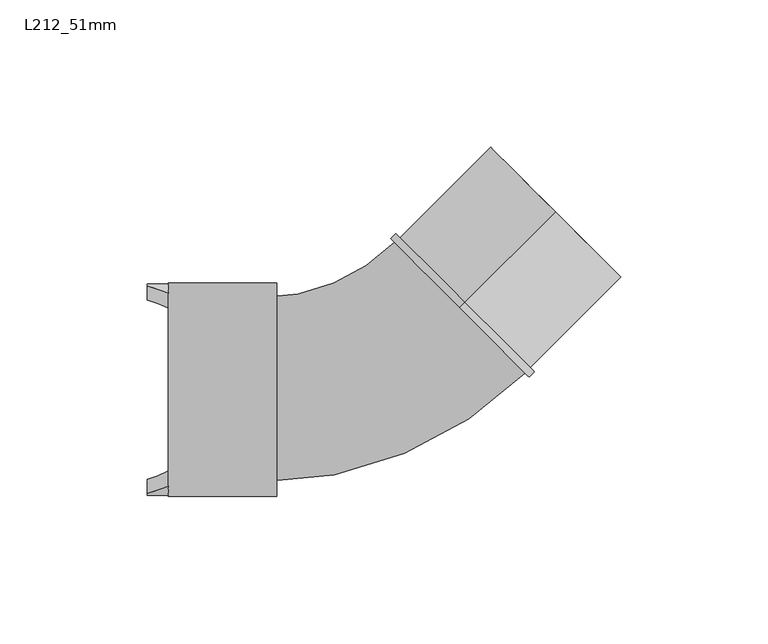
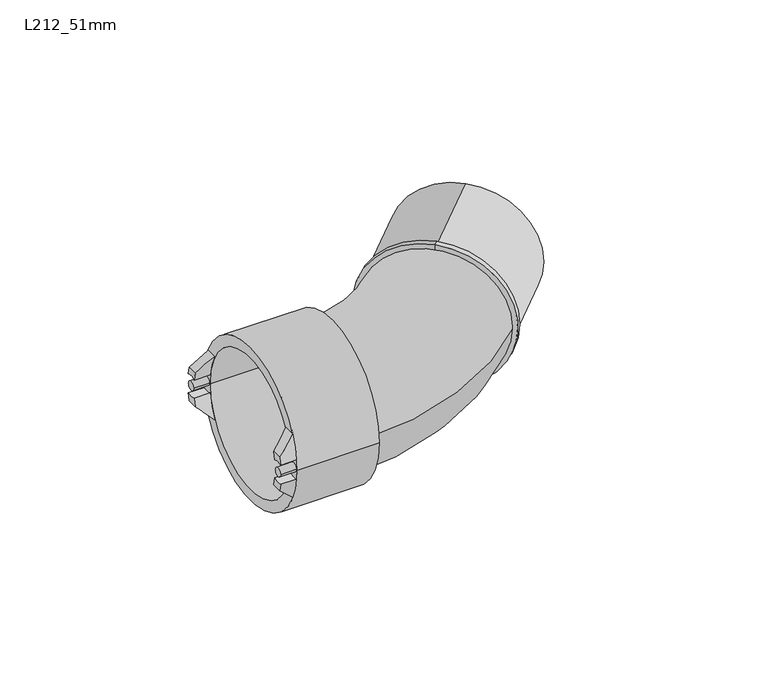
"""IFC4 building model written with IfcOpenShell, lengths in millimetres: pipe fitting geometry, Durapipe_PipeFitting_VulcatheneEnfusion_SingleSocketSlowBend_L21 : L212_51mm."""

from ifc_helpers import new_model, si_unit, point, frame, frame_2d, origin, place, context, project, spatial, polyline, circle_curve, ellipse_curve, trimmed, segment, composite_curve, outline, extrude, source, transform, mapped, element, save
from ifc_brep_helpers import plane_surface, cylinder_surface, revolved_surface, advanced_brep


def l212_51mm_df6e6011(model_context):
    return source(origin(), model_context, "Body", "SolidModel", [
        advanced_brep(
        [(-78.2917098, 31.2103566, -4.2618822), (-78.2917098, 35.8603566, -4.5669819), (-78.2917098, 35.2672497, -7.94), (-78.2917098, 30.482887, -7.94), (-71.1917098, 32.8910702, -15.0), (-71.1917098, 35.8603566, -4.5669819), (-71.1917098, 31.2103566, -4.2618822), (-71.1917098, 27.699278, -15.0)],
        [
            (0, 1, circle_curve(frame((-78.2917098, 33.825, 0.0), z_axis=(1.0, 0.0, 0.0), x_axis=(0.0, -1.0, 0.0)), 5.0)),
            (1, 2, circle_curve(frame((-78.2917098, 0.0, 0.0), z_axis=(-1.0, 0.0, 0.0), x_axis=(0.0, -1.0, 0.0)), 36.15)),
            (2, 3),
            (3, 0, circle_curve(frame((-78.2917098, 0.0, 0.0), z_axis=(1.0, 0.0, 0.0), x_axis=(0.0, -1.0, 0.0)), 31.5)),
            (4, 5, circle_curve(frame((-71.1917098, 0.0, 0.0), z_axis=(1.0, 0.0, 0.0), x_axis=(0.0, -1.0, 0.0)), 36.15)),
            (5, 6, circle_curve(frame((-71.1917098, 33.825, 0.0), z_axis=(-1.0, 0.0, 0.0), x_axis=(0.0, -1.0, 0.0)), 5.0)),
            (6, 7, circle_curve(frame((-71.1917098, 0.0, 0.0), z_axis=(-1.0, 0.0, 0.0), x_axis=(0.0, -1.0, 0.0)), 31.5)),
            (7, 4),
            (6, 0),
            (3, 7, ellipse_curve(frame((-86.2766956, 0.0, 0.0), z_axis=(-0.705106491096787, 0.0, -0.7091014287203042), x_axis=(0.7091014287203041, 0.0, -0.705106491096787)), 44.674103, 31.5)),
            (4, 2, ellipse_curve(frame((-86.2766956, 0.0, 0.0), z_axis=(0.705106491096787, 0.0, 0.7091014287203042), x_axis=(-0.7091014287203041, 0.0, 0.705106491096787)), 51.2688515, 36.15)),
            (1, 5),
        ],
        [
            plane_surface(frame((-78.2917098, 32.8910702, -15.0), z_axis=(-1.0, 0.0, 0.0), x_axis=(0.0, -1.0, 0.0))),
            plane_surface(frame((-71.1917098, 32.8910702, -15.0), z_axis=(1.0, 0.0, 0.0), x_axis=(0.0, 1.0, 0.0))),
            revolved_surface(polyline([(-54.59822533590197, -31.5, 0.0), (-117.95516586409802, -31.5, 0.0)]), (-71.1917098, 0.0, 0.0), (1.0, 0.0, 0.0)),
            cylinder_surface(frame((-71.1917098, 0.0, 0.0), z_axis=(-1.0, 0.0, 0.0), x_axis=(0.0, -1.0, 0.0)), 36.15),
            revolved_surface(polyline([(-78.2917098, 28.825000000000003, 0.0), (-71.1917098, 28.825000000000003, 0.0)]), (-71.1917098, 33.825, 0.0), (-1.0, 0.0, 0.0)),
            plane_surface(frame((-71.1917098, -36.15, -15.0), z_axis=(-0.705106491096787, 0.0, -0.7091014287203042), x_axis=(0.0, 1.0, 0.0))),
        ],
        [
            (0, [[1, 2, 3, 4]]),
            (1, [[5, 6, 7, 8]]),
            (2, [[-7, 9, -4, 10]]),
            (3, [[-5, 11, -2, 12]]),
            (4, [[-1, -9, -6, -12]]),
            (5, [[-3, -11, -8, -10]]),
        ],
    ),
        advanced_brep(
        [(-78.2917098, 35.8603566, 4.5669819), (-78.2917098, 31.2103566, 4.2618822), (-78.2917098, 30.482887, 7.94), (-78.2917098, 35.2672497, 7.94), (-71.1917098, 35.8603566, 4.5669819), (-71.1917098, 32.8910702, 15.0), (-71.1917098, 27.699278, 15.0), (-71.1917098, 31.2103566, 4.2618822)],
        [
            (0, 1, circle_curve(frame((-78.2917098, 33.825, 0.0), z_axis=(1.0, 0.0, 0.0), x_axis=(0.0, -1.0, 0.0)), 5.0)),
            (1, 2, circle_curve(frame((-78.2917098, 0.0, 0.0), z_axis=(1.0, 0.0, 0.0), x_axis=(0.0, -1.0, 0.0)), 31.5)),
            (2, 3),
            (3, 0, circle_curve(frame((-78.2917098, 0.0, 0.0), z_axis=(-1.0, 0.0, 0.0), x_axis=(0.0, -1.0, 0.0)), 36.15)),
            (4, 5, circle_curve(frame((-71.1917098, 0.0, 0.0), z_axis=(1.0, 0.0, 0.0), x_axis=(0.0, -1.0, 0.0)), 36.15)),
            (5, 6),
            (6, 7, circle_curve(frame((-71.1917098, 0.0, 0.0), z_axis=(-1.0, 0.0, 0.0), x_axis=(0.0, -1.0, 0.0)), 31.5)),
            (7, 4, circle_curve(frame((-71.1917098, 33.825, 0.0), z_axis=(-1.0, 0.0, 0.0), x_axis=(0.0, -1.0, 0.0)), 5.0)),
            (6, 2, ellipse_curve(frame((-86.2766956, 0.0, 0.0), z_axis=(-0.7051064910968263, 0.0, 0.7091014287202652), x_axis=(0.7091014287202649, 0.0, 0.7051064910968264)), 44.674103, 31.5)),
            (1, 7),
            (4, 0),
            (3, 5, ellipse_curve(frame((-86.2766956, 0.0, 0.0), z_axis=(0.7051064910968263, 0.0, -0.7091014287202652), x_axis=(-0.7091014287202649, 0.0, -0.7051064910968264)), 51.2688515, 36.15)),
        ],
        [
            plane_surface(frame((-78.2917098, 32.8910702, -15.0), z_axis=(-1.0, 0.0, 0.0), x_axis=(0.0, -1.0, 0.0))),
            plane_surface(frame((-71.1917098, 32.8910702, -15.0), z_axis=(1.0, 0.0, 0.0), x_axis=(0.0, 1.0, 0.0))),
            revolved_surface(polyline([(-54.59822533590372, -31.5, 0.0), (-117.95516586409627, -31.5, 0.0)]), (-71.1917098, 0.0, 0.0), (1.0, 0.0, 0.0)),
            cylinder_surface(frame((-71.1917098, 0.0, 0.0), z_axis=(-1.0, 0.0, 0.0), x_axis=(0.0, -1.0, 0.0)), 36.15),
            revolved_surface(polyline([(-78.2917098, 28.825000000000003, 0.0), (-71.1917098, 28.825000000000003, 0.0)]), (-71.1917098, 33.825, 0.0), (-1.0, 0.0, 0.0)),
            plane_surface(frame((-78.2917098, -36.15, 7.94), z_axis=(-0.7051064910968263, 0.0, 0.7091014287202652), x_axis=(0.0, 1.0, 0.0))),
        ],
        [
            (0, [[1, 2, 3, 4]]),
            (1, [[5, 6, 7, 8]]),
            (2, [[-7, 9, -2, 10]]),
            (3, [[-5, 11, -4, 12]]),
            (4, [[-1, -11, -8, -10]]),
            (5, [[-3, -9, -6, -12]]),
        ],
    ),
        advanced_brep(
        [(-78.2917098, -35.8603566, -4.5669819), (-78.2917098, -31.2103566, -4.2618822), (-78.2917098, -30.482887, -7.94), (-78.2917098, -35.2672497, -7.94), (-71.1917098, -35.8603566, -4.5669819), (-71.1917098, -32.8910702, -15.0), (-71.1917098, -27.699278, -15.0), (-71.1917098, -31.2103566, -4.2618822)],
        [
            (0, 1, circle_curve(frame((-78.2917098, -33.825, 0.0), z_axis=(1.0, 0.0, 0.0), x_axis=(0.0, -1.0, 0.0)), 5.0)),
            (1, 2, circle_curve(frame((-78.2917098, 0.0, 0.0), z_axis=(1.0, 0.0, 0.0), x_axis=(0.0, -1.0, 0.0)), 31.5)),
            (2, 3),
            (3, 0, circle_curve(frame((-78.2917098, 0.0, 0.0), z_axis=(-1.0, 0.0, 0.0), x_axis=(0.0, -1.0, 0.0)), 36.15)),
            (4, 5, circle_curve(frame((-71.1917098, 0.0, 0.0), z_axis=(1.0, 0.0, 0.0), x_axis=(0.0, -1.0, 0.0)), 36.15)),
            (5, 6),
            (6, 7, circle_curve(frame((-71.1917098, 0.0, 0.0), z_axis=(-1.0, 0.0, 0.0), x_axis=(0.0, -1.0, 0.0)), 31.5)),
            (7, 4, circle_curve(frame((-71.1917098, -33.825, 0.0), z_axis=(-1.0, 0.0, 0.0), x_axis=(0.0, -1.0, 0.0)), 5.0)),
            (6, 2, ellipse_curve(frame((-86.2766956, 0.0, 0.0), z_axis=(-0.705106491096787, 0.0, -0.7091014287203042), x_axis=(0.7091014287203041, 0.0, -0.705106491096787)), 44.674103, 31.5)),
            (1, 7),
            (4, 0),
            (3, 5, ellipse_curve(frame((-86.2766956, 0.0, 0.0), z_axis=(0.705106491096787, 0.0, 0.7091014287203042), x_axis=(-0.7091014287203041, 0.0, 0.705106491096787)), 51.2688515, 36.15)),
        ],
        [
            plane_surface(frame((-78.2917098, 32.8910702, -15.0), z_axis=(-1.0, 0.0, 0.0), x_axis=(0.0, -1.0, 0.0))),
            plane_surface(frame((-71.1917098, 32.8910702, -15.0), z_axis=(1.0, 0.0, 0.0), x_axis=(0.0, 1.0, 0.0))),
            revolved_surface(polyline([(-54.59822533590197, -31.5, 0.0), (-117.95516586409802, -31.5, 0.0)]), (-71.1917098, 0.0, 0.0), (1.0, 0.0, 0.0)),
            cylinder_surface(frame((-71.1917098, 0.0, 0.0), z_axis=(-1.0, 0.0, 0.0), x_axis=(0.0, -1.0, 0.0)), 36.15),
            revolved_surface(polyline([(-78.2917098, -38.825, 0.0), (-71.1917098, -38.825, 0.0)]), (-71.1917098, -33.825, 0.0), (-1.0, 0.0, 0.0)),
            plane_surface(frame((-71.1917098, -36.15, -15.0), z_axis=(-0.705106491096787, 0.0, -0.7091014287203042), x_axis=(0.0, 1.0, 0.0))),
        ],
        [
            (0, [[1, 2, 3, 4]]),
            (1, [[5, 6, 7, 8]]),
            (2, [[-7, 9, -2, 10]]),
            (3, [[-5, 11, -4, 12]]),
            (4, [[-1, -11, -8, -10]]),
            (5, [[-3, -9, -6, -12]]),
        ],
    ),
        advanced_brep(
        [(-78.2917098, -31.2103566, 4.2618822), (-78.2917098, -35.8603566, 4.5669819), (-78.2917098, -35.2672497, 7.94), (-78.2917098, -30.482887, 7.94), (-71.1917098, -32.8910702, 15.0), (-71.1917098, -35.8603566, 4.5669819), (-71.1917098, -31.2103566, 4.2618822), (-71.1917098, -27.699278, 15.0)],
        [
            (0, 1, circle_curve(frame((-78.2917098, -33.825, 0.0), z_axis=(1.0, 0.0, 0.0), x_axis=(0.0, -1.0, 0.0)), 5.0)),
            (1, 2, circle_curve(frame((-78.2917098, 0.0, 0.0), z_axis=(-1.0, 0.0, 0.0), x_axis=(0.0, -1.0, 0.0)), 36.15)),
            (2, 3),
            (3, 0, circle_curve(frame((-78.2917098, 0.0, 0.0), z_axis=(1.0, 0.0, 0.0), x_axis=(0.0, -1.0, 0.0)), 31.5)),
            (4, 5, circle_curve(frame((-71.1917098, 0.0, 0.0), z_axis=(1.0, 0.0, 0.0), x_axis=(0.0, -1.0, 0.0)), 36.15)),
            (5, 6, circle_curve(frame((-71.1917098, -33.825, 0.0), z_axis=(-1.0, 0.0, 0.0), x_axis=(0.0, -1.0, 0.0)), 5.0)),
            (6, 7, circle_curve(frame((-71.1917098, 0.0, 0.0), z_axis=(-1.0, 0.0, 0.0), x_axis=(0.0, -1.0, 0.0)), 31.5)),
            (7, 4),
            (6, 0),
            (3, 7, ellipse_curve(frame((-86.2766956, 0.0, 0.0), z_axis=(-0.7051064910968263, 0.0, 0.7091014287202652), x_axis=(0.7091014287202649, 0.0, 0.7051064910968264)), 44.674103, 31.5)),
            (4, 2, ellipse_curve(frame((-86.2766956, 0.0, 0.0), z_axis=(0.7051064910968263, 0.0, -0.7091014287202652), x_axis=(-0.7091014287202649, 0.0, -0.7051064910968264)), 51.2688515, 36.15)),
            (1, 5),
        ],
        [
            plane_surface(frame((-78.2917098, 32.8910702, -15.0), z_axis=(-1.0, 0.0, 0.0), x_axis=(0.0, -1.0, 0.0))),
            plane_surface(frame((-71.1917098, 32.8910702, -15.0), z_axis=(1.0, 0.0, 0.0), x_axis=(0.0, 1.0, 0.0))),
            revolved_surface(polyline([(-54.59822533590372, -31.5, 0.0), (-117.95516586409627, -31.5, 0.0)]), (-71.1917098, 0.0, 0.0), (1.0, 0.0, 0.0)),
            cylinder_surface(frame((-71.1917098, 0.0, 0.0), z_axis=(-1.0, 0.0, 0.0), x_axis=(0.0, -1.0, 0.0)), 36.15),
            revolved_surface(polyline([(-78.2917098, -38.825, 0.0), (-71.1917098, -38.825, 0.0)]), (-71.1917098, -33.825, 0.0), (-1.0, 0.0, 0.0)),
            plane_surface(frame((-78.2917098, -36.15, 7.94), z_axis=(-0.7051064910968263, 0.0, 0.7091014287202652), x_axis=(0.0, 1.0, 0.0))),
        ],
        [
            (0, [[1, 2, 3, 4]]),
            (1, [[5, 6, 7, 8]]),
            (2, [[-7, 9, -4, 10]]),
            (3, [[-5, 11, -2, 12]]),
            (4, [[-1, -9, -6, -12]]),
            (5, [[-3, -11, -8, -10]]),
        ],
    ),
        extrude(outline(composite_curve([segment(trimmed(circle_curve(frame_2d((33.825, 0.0)), 2.0), [point((35.825, 0.0))], [point((31.825, 0.0))], False, "CARTESIAN"), True, "CONTINUOUS"), segment(trimmed(circle_curve(frame_2d((33.825, 0.0)), 2.0), [point((31.825, 0.0))], [point((35.825, 0.0))], False, "CARTESIAN"), True, "CONTINUOUS")], self_intersect=False)), frame((-78.2917098, 0.0, 0.0), z_axis=(1.0, 0.0, 0.0), x_axis=(0.0, 1.0, 0.0)), (0.0, 0.0, 1.0), 7.1),
        extrude(outline(composite_curve([segment(trimmed(circle_curve(frame_2d((-33.825, 0.0)), 2.0), [point((-31.825, 0.0))], [point((-35.825, 0.0))], False, "CARTESIAN"), True, "CONTINUOUS"), segment(trimmed(circle_curve(frame_2d((-33.825, 0.0)), 2.0), [point((-35.825, 0.0))], [point((-31.825, 0.0))], False, "CARTESIAN"), True, "CONTINUOUS")], self_intersect=False)), frame((-78.2917098, 0.0, 0.0), z_axis=(1.0, 0.0, 0.0), x_axis=(0.0, 1.0, 0.0)), (0.0, 0.0, 1.0), 7.1),
        advanced_brep(
        [(-39.3917098, 26.1, 0.0), (-39.3917098, -26.1, 0.0), (-39.3917098, -31.35, 0.0), (-39.3917098, 31.35, 0.0), (-34.2917098, 26.1, 0.0), (-34.2917098, -26.1, 0.0), (-34.2917098, 36.3, 0.0), (-34.2917098, -36.3, 0.0), (-71.1917098, 36.3, 0.0), (-71.1917098, -36.3, 0.0), (-71.1917098, 31.35, 0.0), (-71.1917098, -31.35, 0.0)],
        [
            (0, 1, circle_curve(frame((-39.3917098, 0.0, 0.0), z_axis=(1.0, 0.0, 0.0), x_axis=(0.0, -1.0, 0.0)), 26.1)),
            (1, 2),
            (2, 3, circle_curve(frame((-39.3917098, 0.0, 0.0), z_axis=(-1.0, 0.0, 0.0), x_axis=(0.0, -1.0, 0.0)), 31.35)),
            (3, 0),
            (1, 0, circle_curve(frame((-39.3917098, 0.0, 0.0), z_axis=(1.0, 0.0, 0.0), x_axis=(0.0, -1.0, 0.0)), 26.1)),
            (3, 2, circle_curve(frame((-39.3917098, 0.0, 0.0), z_axis=(-1.0, 0.0, 0.0), x_axis=(0.0, -1.0, 0.0)), 31.35)),
            (4, 5, circle_curve(frame((-34.2917098, 0.0, 0.0), z_axis=(1.0, 0.0, 0.0), x_axis=(0.0, -1.0, 0.0)), 26.1)),
            (5, 1),
            (0, 4),
            (5, 4, circle_curve(frame((-34.2917098, 0.0, 0.0), z_axis=(1.0, 0.0, 0.0), x_axis=(0.0, -1.0, 0.0)), 26.1)),
            (6, 7, circle_curve(frame((-34.2917098, 0.0, 0.0), z_axis=(1.0, 0.0, 0.0), x_axis=(0.0, -1.0, 0.0)), 36.3)),
            (7, 5),
            (4, 6),
            (7, 6, circle_curve(frame((-34.2917098, 0.0, 0.0), z_axis=(1.0, 0.0, 0.0), x_axis=(0.0, -1.0, 0.0)), 36.3)),
            (8, 9, circle_curve(frame((-71.1917098, 0.0, 0.0), z_axis=(1.0, 0.0, 0.0), x_axis=(0.0, -1.0, 0.0)), 36.3)),
            (9, 7),
            (6, 8),
            (9, 8, circle_curve(frame((-71.1917098, 0.0, 0.0), z_axis=(1.0, 0.0, 0.0), x_axis=(0.0, -1.0, 0.0)), 36.3)),
            (10, 11, circle_curve(frame((-71.1917098, 0.0, 0.0), z_axis=(1.0, 0.0, 0.0), x_axis=(0.0, -1.0, 0.0)), 31.35)),
            (11, 9),
            (8, 10),
            (11, 10, circle_curve(frame((-71.1917098, 0.0, 0.0), z_axis=(1.0, 0.0, 0.0), x_axis=(0.0, -1.0, 0.0)), 31.35)),
            (2, 11),
            (10, 3),
        ],
        [
            plane_surface(frame((-39.3917098, 0.0, 0.0), z_axis=(-1.0, 0.0, 0.0), x_axis=(0.0, -1.0, 0.0))),
            revolved_surface(polyline([(-39.39170980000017, -26.1, 0.0), (-34.29170979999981, -26.1, 0.0)]), (-2585.1743338, 0.0, 0.0), (-1.0, 0.0, 0.0)),
            plane_surface(frame((-34.2917098, 0.0, 0.0), z_axis=(1.0, 0.0, 0.0), x_axis=(0.0, -1.0, 0.0))),
            cylinder_surface(frame((-2585.1743338, 0.0, 0.0), z_axis=(-1.0, 0.0, 0.0), x_axis=(0.0, -1.0, 0.0)), 36.3),
            plane_surface(frame((-71.1917098, 0.0, 0.0), z_axis=(-1.0, 0.0, 0.0), x_axis=(0.0, -1.0, 0.0))),
            revolved_surface(polyline([(-71.1917097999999, -31.35, 0.0), (-39.39170980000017, -31.35, 0.0)]), (-2585.1743338, 0.0, 0.0), (-1.0, 0.0, 0.0)),
        ],
        [
            (0, [[1, 2, 3, 4]]),
            (0, [[5, -4, 6, -2]]),
            (1, [[7, 8, -1, 9]]),
            (1, [[10, -9, -5, -8]]),
            (2, [[11, 12, -7, 13]]),
            (2, [[14, -13, -10, -12]]),
            (3, [[15, 16, -11, 17]]),
            (3, [[18, -17, -14, -16]]),
            (4, [[19, 20, -15, 21]]),
            (4, [[22, -21, -18, -20]]),
            (5, [[-3, 23, -19, 24]]),
            (5, [[-6, -24, -22, -23]]),
        ],
    ),
        advanced_brep(
        [(27.8541451, 27.8541451, -33.35), (27.8541451, 27.8541451, 33.35), (27.8541451, 27.8541451, 26.1), (27.8541451, 27.8541451, -26.1), (29.6219121, 29.6219121, -33.35), (29.6219121, 29.6219121, 33.35), (29.6219121, 29.6219121, -31.35), (29.6219121, 29.6219121, 31.35), (60.381057, 60.381057, -31.35), (60.381057, 60.381057, 31.35), (60.381057, 60.381057, -26.1), (60.381057, 60.381057, 26.1)],
        [
            (0, 1, circle_curve(frame((27.8541451, 27.8541451, 0.0), z_axis=(-0.7071067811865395, -0.7071067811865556, 0.0), x_axis=(0.0, 0.0, 1.0)), 33.35)),
            (1, 2),
            (2, 3, circle_curve(frame((27.8541451, 27.8541451, 0.0), z_axis=(0.7071067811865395, 0.7071067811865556, 0.0), x_axis=(0.0, 0.0, 1.0)), 26.1)),
            (3, 0),
            (1, 0, circle_curve(frame((27.8541451, 27.8541451, 0.0), z_axis=(-0.7071067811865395, -0.7071067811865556, 0.0), x_axis=(0.0, 0.0, 1.0)), 33.35)),
            (3, 2, circle_curve(frame((27.8541451, 27.8541451, 0.0), z_axis=(0.7071067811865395, 0.7071067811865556, 0.0), x_axis=(0.0, 0.0, 1.0)), 26.1)),
            (4, 5, circle_curve(frame((29.6219121, 29.6219121, 0.0), z_axis=(-0.7071067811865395, -0.7071067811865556, 0.0), x_axis=(0.0, 0.0, 1.0)), 33.35)),
            (5, 1),
            (0, 4),
            (5, 4, circle_curve(frame((29.6219121, 29.6219121, 0.0), z_axis=(-0.7071067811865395, -0.7071067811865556, 0.0), x_axis=(0.0, 0.0, 1.0)), 33.35)),
            (6, 7, circle_curve(frame((29.6219121, 29.6219121, 0.0), z_axis=(-0.7071067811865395, -0.7071067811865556, 0.0), x_axis=(0.0, 0.0, 1.0)), 31.35)),
            (7, 5),
            (4, 6),
            (7, 6, circle_curve(frame((29.6219121, 29.6219121, 0.0), z_axis=(-0.7071067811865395, -0.7071067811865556, 0.0), x_axis=(0.0, 0.0, 1.0)), 31.35)),
            (8, 9, circle_curve(frame((60.381057, 60.381057, 0.0), z_axis=(-0.7071067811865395, -0.7071067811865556, 0.0), x_axis=(0.0, 0.0, 1.0)), 31.35)),
            (9, 7),
            (6, 8),
            (9, 8, circle_curve(frame((60.381057, 60.381057, 0.0), z_axis=(-0.7071067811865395, -0.7071067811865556, 0.0), x_axis=(0.0, 0.0, 1.0)), 31.35)),
            (10, 11, circle_curve(frame((60.381057, 60.381057, 0.0), z_axis=(-0.7071067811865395, -0.7071067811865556, 0.0), x_axis=(0.0, 0.0, 1.0)), 26.1)),
            (11, 9),
            (8, 10),
            (11, 10, circle_curve(frame((60.381057, 60.381057, 0.0), z_axis=(-0.7071067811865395, -0.7071067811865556, 0.0), x_axis=(0.0, 0.0, 1.0)), 26.1)),
            (2, 11),
            (10, 3),
        ],
        [
            plane_surface(frame((27.8541451, 27.8541451, 0.0), z_axis=(-0.7071067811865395, -0.7071067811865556, 0.0), x_axis=(0.0, 0.0, 1.0))),
            cylinder_surface(frame((1862.8373261, 1862.8373261, 0.0), z_axis=(0.7071067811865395, 0.7071067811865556, 0.0), x_axis=(0.0, 0.0, 1.0)), 33.35),
            plane_surface(frame((29.6219121, 29.6219121, 0.0), z_axis=(0.7071067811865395, 0.7071067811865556, 0.0), x_axis=(0.0, 0.0, 1.0))),
            cylinder_surface(frame((1862.8373261, 1862.8373261, 0.0), z_axis=(0.7071067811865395, 0.7071067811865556, 0.0), x_axis=(0.0, 0.0, 1.0)), 31.35),
            plane_surface(frame((60.381057, 60.381057, 0.0), z_axis=(0.7071067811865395, 0.7071067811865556, 0.0), x_axis=(0.0, 0.0, 1.0))),
            revolved_surface(polyline([(60.381057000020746, 60.38105699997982, 26.1), (27.854145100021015, 27.854145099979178, 26.1)]), (1862.8373261, 1862.8373261, 0.0), (0.7071067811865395, 0.7071067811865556, 0.0)),
        ],
        [
            (0, [[1, 2, 3, 4]]),
            (0, [[5, -4, 6, -2]]),
            (1, [[7, 8, -1, 9]]),
            (1, [[10, -9, -5, -8]]),
            (2, [[11, 12, -7, 13]]),
            (2, [[14, -13, -10, -12]]),
            (3, [[15, 16, -11, 17]]),
            (3, [[18, -17, -14, -16]]),
            (4, [[19, 20, -15, 21]]),
            (4, [[22, -21, -18, -20]]),
            (5, [[-3, 23, -19, 24]]),
            (5, [[-6, -24, -22, -23]]),
        ],
    ),
        advanced_brep(
        [(-39.3917098, -31.35, 0.0), (-39.3917098, 31.35, 0.0), (-39.3917098, -26.1, 0.0), (-39.3917098, 26.1, 0.0), (50.0219427, 5.6863475, 0.0), (5.6863475, 50.0219427, 0.0), (46.3096321, 9.3986581, 0.0), (9.3986581, 46.3096321, 0.0)],
        [
            (0, 1, circle_curve(frame((-39.3917098, 0.0, 0.0), z_axis=(-1.0, 0.0, 0.0), x_axis=(0.0, 1.0, 0.0)), 31.35)),
            (1, 0, circle_curve(frame((-39.3917098, 0.0, 0.0), z_axis=(-1.0, 0.0, 0.0), x_axis=(0.0, 1.0, 0.0)), 31.35)),
            (2, 3, circle_curve(frame((-39.3917098, 0.0, 0.0), z_axis=(1.0, 0.0, 0.0), x_axis=(0.0, 1.0, 0.0)), 26.1)),
            (3, 2, circle_curve(frame((-39.3917098, 0.0, 0.0), z_axis=(1.0, 0.0, 0.0), x_axis=(0.0, 1.0, 0.0)), 26.1)),
            (4, 5, circle_curve(frame((27.8541451, 27.8541451, 0.0), z_axis=(0.7071067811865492, 0.7071067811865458, 0.0), x_axis=(-0.7071067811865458, 0.7071067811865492, 0.0)), 31.35)),
            (5, 4, circle_curve(frame((27.8541451, 27.8541451, 0.0), z_axis=(0.7071067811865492, 0.7071067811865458, 0.0), x_axis=(-0.7071067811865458, 0.7071067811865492, 0.0)), 31.35)),
            (6, 7, circle_curve(frame((27.8541451, 27.8541451, 0.0), z_axis=(-0.7071067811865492, -0.7071067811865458, 0.0), x_axis=(-0.7071067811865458, 0.7071067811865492, 0.0)), 26.1)),
            (7, 6, circle_curve(frame((27.8541451, 27.8541451, 0.0), z_axis=(-0.7071067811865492, -0.7071067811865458, 0.0), x_axis=(-0.7071067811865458, 0.7071067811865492, 0.0)), 26.1)),
            (5, 1, circle_curve(frame((-39.3917098, 95.1, 0.0), z_axis=(0.0, 0.0, -1.0), x_axis=(0.0, -1.0, 0.0)), 63.75)),
            (0, 4, circle_curve(frame((-39.3917098, 95.1, 0.0), z_axis=(0.0, 0.0, 1.0), x_axis=(0.0, -1.0, 0.0)), 126.45)),
            (7, 3, circle_curve(frame((-39.3917098, 95.1, 0.0), z_axis=(0.0, 0.0, -1.0), x_axis=(0.0, -1.0, 0.0)), 69.0)),
            (2, 6, circle_curve(frame((-39.3917098, 95.1, 0.0), z_axis=(0.0, 0.0, 1.0), x_axis=(0.0, -1.0, 0.0)), 121.2)),
        ],
        [
            plane_surface(frame((-39.3917098, 0.0, 0.0), z_axis=(-1.0, 0.0, 0.0), x_axis=(0.0, 0.0, 1.0))),
            plane_surface(frame((27.8541451, 27.8541451, 0.0), z_axis=(0.7071067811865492, 0.7071067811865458, 0.0), x_axis=(0.0, 0.0, 1.0))),
            revolved_surface(trimmed(ellipse_curve(frame((-39.3917098, 0.0, 0.0), z_axis=(-1.0, 0.0, 0.0), x_axis=(0.0, 1.0, 0.0)), 31.35, 31.35), [point((-39.3917098, -31.35, 0.0))], [point((-39.3917098, 31.35, 0.0))], True, "CARTESIAN"), (-39.3917098, 95.1, 0.0), (0.0, 0.0, 1.0)),
            revolved_surface(trimmed(ellipse_curve(frame((-39.3917098, 0.0, 0.0), z_axis=(-1.0, 0.0, 0.0), x_axis=(0.0, 1.0, 0.0)), 31.35, 31.35), [point((-39.3917098, 31.35, 0.0))], [point((-39.3917098, -31.35, 0.0))], True, "CARTESIAN"), (-39.3917098, 95.1, 0.0), (0.0, 0.0, 1.0)),
            revolved_surface(trimmed(ellipse_curve(frame((-39.3917098, 0.0, 0.0), z_axis=(1.0, 0.0, 0.0), x_axis=(0.0, 1.0, 0.0)), 26.1, 26.1), [point((-39.3917098, -26.1, 0.0))], [point((-39.3917098, 26.1, 0.0))], True, "CARTESIAN"), (-39.3917098, 95.1, 0.0), (0.0, 0.0, 1.0)),
            revolved_surface(trimmed(ellipse_curve(frame((-39.3917098, 0.0, 0.0), z_axis=(1.0, 0.0, 0.0), x_axis=(0.0, 1.0, 0.0)), 26.1, 26.1), [point((-39.3917098, 26.1, 0.0))], [point((-39.3917098, -26.1, 0.0))], True, "CARTESIAN"), (-39.3917098, 95.1, 0.0), (0.0, 0.0, 1.0)),
        ],
        [
            (0, [[1, 2], [3, 4]]),
            (1, [[5, 6], [7, 8]]),
            (2, [[9, -1, 10, -6]]),
            (3, [[-10, -2, -9, -5]]),
            (4, [[11, -3, 12, -8]]),
            (5, [[-12, -4, -11, -7]]),
        ],
    ),
    ])


if __name__ == "__main__":
    model = new_model("IFC4")
    model_context = context("Model", 3, world=origin())
    ifc_project = project(units=[si_unit("LENGTHUNIT", "METRE", prefix="MILLI")], contexts=[model_context])
    site = spatial("IfcSite", under=ifc_project)
    building = spatial("IfcBuilding", under=site)
    placement = place(None, origin())
    l212_51mm_shape = l212_51mm_df6e6011(model_context)
    element("IfcPipeFitting", 1, ObjectType="Durapipe_PipeFitting_VulcatheneEnfusion_SingleSocketSlowBend_L21 : L212_51mm", at=placement, inside=building, context=model_context, shape_type="MappedRepresentation", body=[
        mapped(l212_51mm_shape, transform((0.0, 0.0, 0.0), x_axis=(1.0, 0.0, 0.0), y_axis=(0.0, 1.0, 0.0), z_axis=(0.0, 0.0, 1.0))),
    ])
    save(model, "model.ifc")
